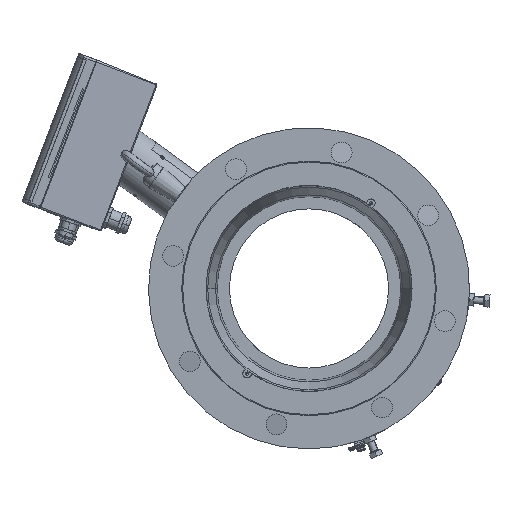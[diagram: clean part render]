
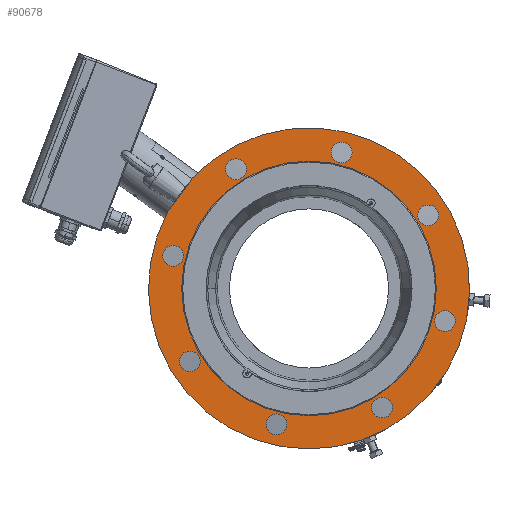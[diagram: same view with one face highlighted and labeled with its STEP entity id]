
A CAD part, left-side view. The second image highlights one B-rep face of the part: STEP entity #90678.
In plain terms, the highlighted planar face has unit normal (-1, 0, 0).
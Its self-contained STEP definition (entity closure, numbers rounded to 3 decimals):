
#21005=CARTESIAN_POINT('',(-298.4,0.,0.));
#21006=DIRECTION('',(-1.,0.,0.));
#21007=DIRECTION('',(0.,0.878,0.478));
#21008=AXIS2_PLACEMENT_3D('',#21005,#21006,#21007);
#21131=DIRECTION('',(0.,-0.588,0.809));
#21132=VECTOR('',#21131,44.502);
#21133=CARTESIAN_POINT('',(-298.4,150.612,81.922));
#21134=LINE('4581',#21133,#21132);
#21138=CARTESIAN_POINT('',(-298.4,0.,0.));
#21139=DIRECTION('',(-1.,0.,0.));
#21140=DIRECTION('',(0.,1.,0.));
#21141=AXIS2_PLACEMENT_3D('',#21138,#21139,#21140);
#21146=CARTESIAN_POINT('',(-298.4,0.,0.));
#21147=DIRECTION('',(1.,0.,0.));
#21148=DIRECTION('',(0.,1.,0.));
#21149=AXIS2_PLACEMENT_3D('',#21146,#21147,#21148);
#21154=CARTESIAN_POINT('',(-298.4,145.078,34.83));
#21155=DIRECTION('',(1.,0.,0.));
#21156=DIRECTION('',(0.,1.,0.));
#21157=AXIS2_PLACEMENT_3D('',#21154,#21155,#21156);
#21162=CARTESIAN_POINT('',(-298.4,145.078,34.83));
#21163=DIRECTION('',(1.,0.,0.));
#21164=DIRECTION('',(0.,-1.,0.));
#21165=AXIS2_PLACEMENT_3D('',#21162,#21163,#21164);
#21170=CARTESIAN_POINT('',(-298.4,77.957,127.214));
#21171=DIRECTION('',(1.,0.,0.));
#21172=DIRECTION('',(0.,0.707,0.707));
#21173=AXIS2_PLACEMENT_3D('',#21170,#21171,#21172);
#21178=CARTESIAN_POINT('',(-298.4,77.957,127.214));
#21179=DIRECTION('',(1.,0.,0.));
#21180=DIRECTION('',(0.,-0.707,-0.707));
#21181=AXIS2_PLACEMENT_3D('',#21178,#21179,#21180);
#21186=CARTESIAN_POINT('',(-298.4,-34.83,145.078));
#21187=DIRECTION('',(1.,0.,0.));
#21188=DIRECTION('',(0.,0.,1.));
#21189=AXIS2_PLACEMENT_3D('',#21186,#21187,#21188);
#21194=CARTESIAN_POINT('',(-298.4,-34.83,145.078));
#21195=DIRECTION('',(1.,0.,0.));
#21196=DIRECTION('',(0.,0.,-1.));
#21197=AXIS2_PLACEMENT_3D('',#21194,#21195,#21196);
#21202=CARTESIAN_POINT('',(-298.4,-127.214,77.957));
#21203=DIRECTION('',(1.,0.,0.));
#21204=DIRECTION('',(0.,-0.707,0.707));
#21205=AXIS2_PLACEMENT_3D('',#21202,#21203,#21204);
#21210=CARTESIAN_POINT('',(-298.4,-127.214,77.957));
#21211=DIRECTION('',(1.,0.,0.));
#21212=DIRECTION('',(0.,0.707,-0.707));
#21213=AXIS2_PLACEMENT_3D('',#21210,#21211,#21212);
#21218=CARTESIAN_POINT('',(-298.4,-145.078,-34.83));
#21219=DIRECTION('',(1.,0.,0.));
#21220=DIRECTION('',(0.,-1.,0.));
#21221=AXIS2_PLACEMENT_3D('',#21218,#21219,#21220);
#21226=CARTESIAN_POINT('',(-298.4,-145.078,-34.83));
#21227=DIRECTION('',(1.,0.,0.));
#21228=DIRECTION('',(0.,1.,0.));
#21229=AXIS2_PLACEMENT_3D('',#21226,#21227,#21228);
#21234=CARTESIAN_POINT('',(-298.4,-77.957,-127.214));
#21235=DIRECTION('',(1.,0.,0.));
#21236=DIRECTION('',(0.,-0.707,-0.707));
#21237=AXIS2_PLACEMENT_3D('',#21234,#21235,#21236);
#21242=CARTESIAN_POINT('',(-298.4,-77.957,-127.214));
#21243=DIRECTION('',(1.,0.,0.));
#21244=DIRECTION('',(0.,0.707,0.707));
#21245=AXIS2_PLACEMENT_3D('',#21242,#21243,#21244);
#21250=CARTESIAN_POINT('',(-298.4,34.83,-145.078));
#21251=DIRECTION('',(1.,0.,0.));
#21252=DIRECTION('',(0.,0.,-1.));
#21253=AXIS2_PLACEMENT_3D('',#21250,#21251,#21252);
#21258=CARTESIAN_POINT('',(-298.4,34.83,-145.078));
#21259=DIRECTION('',(1.,0.,0.));
#21260=DIRECTION('',(0.,0.,1.));
#21261=AXIS2_PLACEMENT_3D('',#21258,#21259,#21260);
#21266=CARTESIAN_POINT('',(-298.4,127.214,-77.957));
#21267=DIRECTION('',(1.,0.,0.));
#21268=DIRECTION('',(0.,0.707,-0.707));
#21269=AXIS2_PLACEMENT_3D('',#21266,#21267,#21268);
#21274=CARTESIAN_POINT('',(-298.4,127.214,-77.957));
#21275=DIRECTION('',(1.,0.,0.));
#21276=DIRECTION('',(0.,-0.707,0.707));
#21277=AXIS2_PLACEMENT_3D('',#21274,#21275,#21276);
#66923=CARTESIAN_POINT('',(-298.4,156.178,34.83));
#66924=CARTESIAN_POINT('',(-298.4,133.978,34.83));
#66925=VERTEX_POINT('',#66923);
#66926=VERTEX_POINT('',#66924);
#66931=CARTESIAN_POINT('',(-298.4,85.806,135.063));
#66932=CARTESIAN_POINT('',(-298.4,70.108,119.365));
#66933=VERTEX_POINT('',#66931);
#66934=VERTEX_POINT('',#66932);
#66939=CARTESIAN_POINT('',(-298.4,-34.83,156.178));
#66940=CARTESIAN_POINT('',(-298.4,-34.83,133.978));
#66941=VERTEX_POINT('',#66939);
#66942=VERTEX_POINT('',#66940);
#66947=CARTESIAN_POINT('',(-298.4,-135.063,85.806));
#66948=CARTESIAN_POINT('',(-298.4,-119.365,70.108));
#66949=VERTEX_POINT('',#66947);
#66950=VERTEX_POINT('',#66948);
#66955=CARTESIAN_POINT('',(-298.4,-156.178,-34.83));
#66956=CARTESIAN_POINT('',(-298.4,-133.978,-34.83));
#66957=VERTEX_POINT('',#66955);
#66958=VERTEX_POINT('',#66956);
#66963=CARTESIAN_POINT('',(-298.4,-85.806,-135.063));
#66964=CARTESIAN_POINT('',(-298.4,-70.108,-119.365));
#66965=VERTEX_POINT('',#66963);
#66966=VERTEX_POINT('',#66964);
#66971=CARTESIAN_POINT('',(-298.4,34.83,-156.178));
#66972=CARTESIAN_POINT('',(-298.4,34.83,-133.978));
#66973=VERTEX_POINT('',#66971);
#66974=VERTEX_POINT('',#66972);
#66979=CARTESIAN_POINT('',(-298.4,135.063,-85.806));
#66980=CARTESIAN_POINT('',(-298.4,119.365,-70.108));
#66981=VERTEX_POINT('',#66979);
#66982=VERTEX_POINT('',#66980);
#67083=CARTESIAN_POINT('',(-298.4,135.95,0.));
#67084=VERTEX_POINT('',#67083);
#67089=CARTESIAN_POINT('',(-298.4,-135.95,0.));
#67090=VERTEX_POINT('',#67089);
#67307=CARTESIAN_POINT('',(-298.4,150.612,81.922));
#67308=CARTESIAN_POINT('',(-298.4,124.454,117.925));
#67309=VERTEX_POINT('',#67307);
#67310=VERTEX_POINT('',#67308);
#90614=CARTESIAN_POINT('',(-298.4,0.,0.));
#90615=DIRECTION('',(-1.,0.,0.));
#90616=DIRECTION('',(0.,1.,0.));
#90617=AXIS2_PLACEMENT_3D('',#90614,#90615,#90616);
#90618=PLANE('441',#90617);
#90619=ORIENTED_EDGE('4586',*,*,#90591,.F.);
#90621=ORIENTED_EDGE('4581',*,*,#90620,.T.);
#90622=EDGE_LOOP('441',(#90619,#90621));
#90623=FACE_OUTER_BOUND('441',#90622,.F.);
#90625=ORIENTED_EDGE('4395',*,*,#90624,.T.);
#90627=ORIENTED_EDGE('4398',*,*,#90626,.F.);
#90628=EDGE_LOOP('441',(#90625,#90627));
#90629=FACE_BOUND('441',#90628,.F.);
#90631=ORIENTED_EDGE('4257',*,*,#90630,.F.);
#90633=ORIENTED_EDGE('4258',*,*,#90632,.F.);
#90634=EDGE_LOOP('441',(#90631,#90633));
#90635=FACE_BOUND('441',#90634,.F.);
#90637=ORIENTED_EDGE('4263',*,*,#90636,.F.);
#90639=ORIENTED_EDGE('4264',*,*,#90638,.F.);
#90640=EDGE_LOOP('441',(#90637,#90639));
#90641=FACE_BOUND('441',#90640,.F.);
#90643=ORIENTED_EDGE('4269',*,*,#90642,.F.);
#90645=ORIENTED_EDGE('4270',*,*,#90644,.F.);
#90646=EDGE_LOOP('441',(#90643,#90645));
#90647=FACE_BOUND('441',#90646,.F.);
#90649=ORIENTED_EDGE('4275',*,*,#90648,.F.);
#90651=ORIENTED_EDGE('4276',*,*,#90650,.F.);
#90652=EDGE_LOOP('441',(#90649,#90651));
#90653=FACE_BOUND('441',#90652,.F.);
#90655=ORIENTED_EDGE('4281',*,*,#90654,.F.);
#90657=ORIENTED_EDGE('4282',*,*,#90656,.F.);
#90658=EDGE_LOOP('441',(#90655,#90657));
#90659=FACE_BOUND('441',#90658,.F.);
#90661=ORIENTED_EDGE('4287',*,*,#90660,.F.);
#90663=ORIENTED_EDGE('4288',*,*,#90662,.F.);
#90664=EDGE_LOOP('441',(#90661,#90663));
#90665=FACE_BOUND('441',#90664,.F.);
#90667=ORIENTED_EDGE('4293',*,*,#90666,.F.);
#90669=ORIENTED_EDGE('4294',*,*,#90668,.F.);
#90670=EDGE_LOOP('441',(#90667,#90669));
#90671=FACE_BOUND('441',#90670,.F.);
#90673=ORIENTED_EDGE('4299',*,*,#90672,.F.);
#90675=ORIENTED_EDGE('4300',*,*,#90674,.F.);
#90676=EDGE_LOOP('441',(#90673,#90675));
#90677=FACE_BOUND('441',#90676,.F.);
#21009=CIRCLE('4586',#21008,171.45);
#21142=CIRCLE('4395',#21141,135.95);
#21150=CIRCLE('4398',#21149,135.95);
#21158=CIRCLE('4257',#21157,11.1);
#21166=CIRCLE('4258',#21165,11.1);
#21174=CIRCLE('4263',#21173,11.1);
#21182=CIRCLE('4264',#21181,11.1);
#21190=CIRCLE('4269',#21189,11.1);
#21198=CIRCLE('4270',#21197,11.1);
#21206=CIRCLE('4275',#21205,11.1);
#21214=CIRCLE('4276',#21213,11.1);
#21222=CIRCLE('4281',#21221,11.1);
#21230=CIRCLE('4282',#21229,11.1);
#21238=CIRCLE('4287',#21237,11.1);
#21246=CIRCLE('4288',#21245,11.1);
#21254=CIRCLE('4293',#21253,11.1);
#21262=CIRCLE('4294',#21261,11.1);
#21270=CIRCLE('4299',#21269,11.1);
#21278=CIRCLE('4300',#21277,11.1);
#90591=EDGE_CURVE('4586',#67309,#67310,#21009,.T.);
#90620=EDGE_CURVE('4581',#67309,#67310,#21134,.T.);
#90624=EDGE_CURVE('4395',#67084,#67090,#21142,.T.);
#90626=EDGE_CURVE('4398',#67084,#67090,#21150,.T.);
#90630=EDGE_CURVE('4257',#66925,#66926,#21158,.T.);
#90632=EDGE_CURVE('4258',#66926,#66925,#21166,.T.);
#90636=EDGE_CURVE('4263',#66933,#66934,#21174,.T.);
#90638=EDGE_CURVE('4264',#66934,#66933,#21182,.T.);
#90642=EDGE_CURVE('4269',#66941,#66942,#21190,.T.);
#90644=EDGE_CURVE('4270',#66942,#66941,#21198,.T.);
#90648=EDGE_CURVE('4275',#66949,#66950,#21206,.T.);
#90650=EDGE_CURVE('4276',#66950,#66949,#21214,.T.);
#90654=EDGE_CURVE('4281',#66957,#66958,#21222,.T.);
#90656=EDGE_CURVE('4282',#66958,#66957,#21230,.T.);
#90660=EDGE_CURVE('4287',#66965,#66966,#21238,.T.);
#90662=EDGE_CURVE('4288',#66966,#66965,#21246,.T.);
#90666=EDGE_CURVE('4293',#66973,#66974,#21254,.T.);
#90668=EDGE_CURVE('4294',#66974,#66973,#21262,.T.);
#90672=EDGE_CURVE('4299',#66981,#66982,#21270,.T.);
#90674=EDGE_CURVE('4300',#66982,#66981,#21278,.T.);
#90678=ADVANCED_FACE('441',(#90623,#90629,#90635,#90641,#90647,#90653,#90659,
#90665,#90671,#90677),#90618,.T.);
